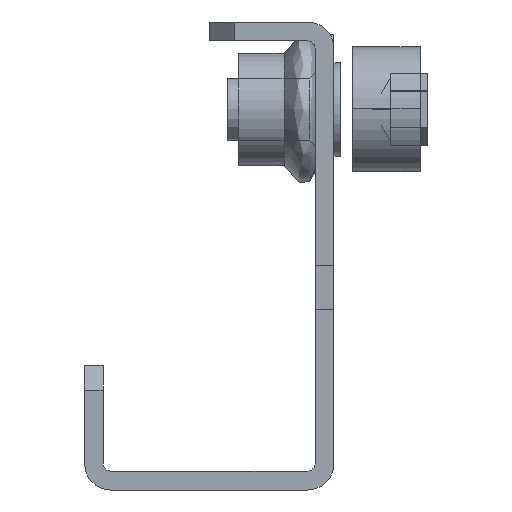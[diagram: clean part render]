
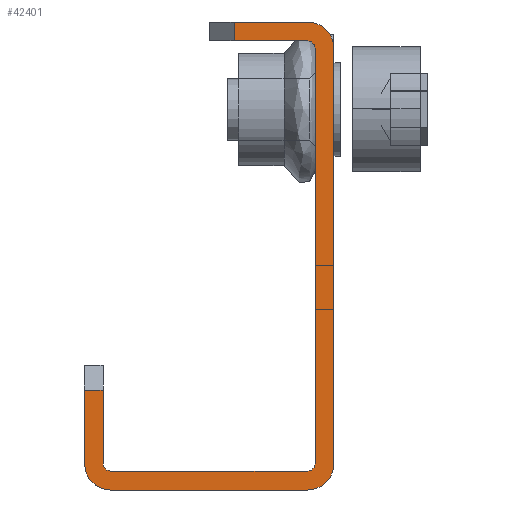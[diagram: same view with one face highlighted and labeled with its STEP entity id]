
A CAD part, left-side view. The second image highlights one B-rep face of the part: STEP entity #42401.
In plain terms, the highlighted planar face has unit normal (-1, 0, 0).
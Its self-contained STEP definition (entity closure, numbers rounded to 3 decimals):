
#9761=CARTESIAN_POINT(' ',(0.,1.5,-16.65));
#9762=VERTEX_POINT(' ',#9761);
#9776=CARTESIAN_POINT(' ',(0.,1.5,-16.65));
#9781=DIRECTION(' ',(0.,0.,1.));
#9786=VECTOR(' ',#9781,1.);
#9791=LINE('',#9776,#9786);
#9796=CARTESIAN_POINT(' ',(0.,1.5,16.65));
#9797=VERTEX_POINT(' ',#9796);
#9801=EDGE_CURVE(' ',#9762,#9797,#9791,.T.);
#28391=CARTESIAN_POINT(' ',(0.,0.,16.65));
#28392=VERTEX_POINT(' ',#28391);
#28406=CARTESIAN_POINT(' ',(0.,0.,-16.65));
#28411=DIRECTION(' ',(0.,0.,1.));
#28416=VECTOR(' ',#28411,1.);
#28421=LINE('',#28406,#28416);
#28426=CARTESIAN_POINT(' ',(0.,0.,-16.65));
#28427=VERTEX_POINT(' ',#28426);
#28431=EDGE_CURVE(' ',#28427,#28392,#28421,.T.);
#41586=CARTESIAN_POINT(' ',(0.,2.1,-17.25));
#41587=VERTEX_POINT(' ',#41586);
#41601=CARTESIAN_POINT(' ',(0.,2.1,-16.65));
#41606=DIRECTION(' ',(-1.,0.,0.));
#41611=DIRECTION(' ',(0.,0.,-1.));
#41616=AXIS2_PLACEMENT_3D(' ',#41601,#41606,#41611);
#41621=CIRCLE('',#41616,0.6);
#41626=EDGE_CURVE(' ',#41587,#9762,#41621,.T.);
#41811=DIRECTION(' ',(-1.,-0.,0.));
#41816=CARTESIAN_POINT(' ',(0.,1.352,-22.751));
#41821=DIRECTION(' ',(0.,-0.228,0.974));
#41826=AXIS2_PLACEMENT_3D(' ',#41816,#41811,#41821);
#41831=PLANE('',#41826);
#41836=CARTESIAN_POINT(' ',(0.,2.1,18.75));
#41841=DIRECTION(' ',(0.,1.,0.));
#41846=VECTOR(' ',#41841,1.);
#41851=LINE('',#41836,#41846);
#41856=CARTESIAN_POINT(' ',(0.,2.1,18.75));
#41857=VERTEX_POINT(' ',#41856);
#41861=CARTESIAN_POINT(' ',(0.,8.,18.75));
#41862=VERTEX_POINT(' ',#41861);
#41866=EDGE_CURVE(' ',#41857,#41862,#41851,.T.);
#41871=ORIENTED_EDGE(' ',*,*,#41866,.T.);
#41876=CARTESIAN_POINT(' ',(0.,8.,18.75));
#41881=DIRECTION(' ',(0.,0.,-1.));
#41886=VECTOR(' ',#41881,1.);
#41891=LINE('',#41876,#41886);
#41896=CARTESIAN_POINT(' ',(0.,8.,17.25));
#41897=VERTEX_POINT(' ',#41896);
#41901=EDGE_CURVE(' ',#41862,#41897,#41891,.T.);
#41906=ORIENTED_EDGE(' ',*,*,#41901,.T.);
#41911=CARTESIAN_POINT(' ',(0.,2.1,17.25));
#41916=DIRECTION(' ',(0.,1.,0.));
#41921=VECTOR(' ',#41916,1.);
#41926=LINE('',#41911,#41921);
#41931=CARTESIAN_POINT(' ',(0.,2.1,17.25));
#41932=VERTEX_POINT(' ',#41931);
#41936=EDGE_CURVE(' ',#41932,#41897,#41926,.T.);
#41941=ORIENTED_EDGE(' ',*,*,#41936,.F.);
#41946=CARTESIAN_POINT(' ',(0.,2.1,16.65));
#41951=DIRECTION(' ',(-1.,0.,-0.));
#41956=DIRECTION(' ',(0.,-1.,0.));
#41961=AXIS2_PLACEMENT_3D(' ',#41946,#41951,#41956);
#41966=CIRCLE('',#41961,0.6);
#41971=EDGE_CURVE(' ',#9797,#41932,#41966,.T.);
#41976=ORIENTED_EDGE(' ',*,*,#41971,.F.);
#41981=ORIENTED_EDGE(' ',*,*,#9801,.F.);
#41986=ORIENTED_EDGE(' ',*,*,#41626,.F.);
#41991=CARTESIAN_POINT(' ',(0.,4.,-17.25));
#41996=DIRECTION(' ',(0.,-1.,0.));
#42001=VECTOR(' ',#41996,1.);
#42006=LINE('',#41991,#42001);
#42011=CARTESIAN_POINT(' ',(0.,4.,-17.25));
#42012=VERTEX_POINT(' ',#42011);
#42016=EDGE_CURVE(' ',#42012,#41587,#42006,.T.);
#42021=ORIENTED_EDGE(' ',*,*,#42016,.F.);
#42026=CARTESIAN_POINT(' ',(0.,17.9,-17.25));
#42031=DIRECTION(' ',(0.,-1.,0.));
#42036=VECTOR(' ',#42031,1.);
#42041=LINE('',#42026,#42036);
#42046=CARTESIAN_POINT(' ',(0.,17.9,-17.25));
#42047=VERTEX_POINT(' ',#42046);
#42051=EDGE_CURVE(' ',#42047,#42012,#42041,.T.);
#42056=ORIENTED_EDGE(' ',*,*,#42051,.F.);
#42061=CARTESIAN_POINT(' ',(0.,17.9,-16.65));
#42066=DIRECTION(' ',(-1.,-0.,0.));
#42071=DIRECTION(' ',(0.,1.,0.));
#42076=AXIS2_PLACEMENT_3D(' ',#42061,#42066,#42071);
#42081=CIRCLE('',#42076,0.6);
#42086=CARTESIAN_POINT(' ',(0.,18.5,-16.65));
#42087=VERTEX_POINT(' ',#42086);
#42091=EDGE_CURVE(' ',#42087,#42047,#42081,.T.);
#42096=ORIENTED_EDGE(' ',*,*,#42091,.F.);
#42101=CARTESIAN_POINT(' ',(0.,18.5,-10.75));
#42106=DIRECTION(' ',(0.,0.,-1.));
#42111=VECTOR(' ',#42106,1.);
#42116=LINE('',#42101,#42111);
#42121=CARTESIAN_POINT(' ',(0.,18.5,-10.75));
#42122=VERTEX_POINT(' ',#42121);
#42126=EDGE_CURVE(' ',#42122,#42087,#42116,.T.);
#42131=ORIENTED_EDGE(' ',*,*,#42126,.F.);
#42136=CARTESIAN_POINT(' ',(0.,18.5,-10.75));
#42141=DIRECTION(' ',(0.,1.,0.));
#42146=VECTOR(' ',#42141,1.);
#42151=LINE('',#42136,#42146);
#42156=CARTESIAN_POINT(' ',(0.,20.,-10.75));
#42157=VERTEX_POINT(' ',#42156);
#42161=EDGE_CURVE(' ',#42122,#42157,#42151,.T.);
#42166=ORIENTED_EDGE(' ',*,*,#42161,.T.);
#42171=CARTESIAN_POINT(' ',(0.,20.,-10.75));
#42176=DIRECTION(' ',(0.,0.,-1.));
#42181=VECTOR(' ',#42176,1.);
#42186=LINE('',#42171,#42181);
#42191=CARTESIAN_POINT(' ',(0.,20.,-16.65));
#42192=VERTEX_POINT(' ',#42191);
#42196=EDGE_CURVE(' ',#42157,#42192,#42186,.T.);
#42201=ORIENTED_EDGE(' ',*,*,#42196,.T.);
#42206=CARTESIAN_POINT(' ',(0.,17.9,-16.65));
#42211=DIRECTION(' ',(-1.,-0.,0.));
#42216=DIRECTION(' ',(0.,1.,0.));
#42221=AXIS2_PLACEMENT_3D(' ',#42206,#42211,#42216);
#42226=CIRCLE('',#42221,2.1);
#42231=CARTESIAN_POINT(' ',(0.,17.9,-18.75));
#42232=VERTEX_POINT(' ',#42231);
#42236=EDGE_CURVE(' ',#42192,#42232,#42226,.T.);
#42241=ORIENTED_EDGE(' ',*,*,#42236,.T.);
#42246=CARTESIAN_POINT(' ',(0.,17.9,-18.75));
#42251=DIRECTION(' ',(0.,-1.,0.));
#42256=VECTOR(' ',#42251,1.);
#42261=LINE('',#42246,#42256);
#42266=CARTESIAN_POINT(' ',(0.,4.,-18.75));
#42267=VERTEX_POINT(' ',#42266);
#42271=EDGE_CURVE(' ',#42232,#42267,#42261,.T.);
#42276=ORIENTED_EDGE(' ',*,*,#42271,.T.);
#42281=CARTESIAN_POINT(' ',(0.,4.,-18.75));
#42286=DIRECTION(' ',(0.,-1.,0.));
#42291=VECTOR(' ',#42286,1.);
#42296=LINE('',#42281,#42291);
#42301=CARTESIAN_POINT(' ',(0.,2.1,-18.75));
#42302=VERTEX_POINT(' ',#42301);
#42306=EDGE_CURVE(' ',#42267,#42302,#42296,.T.);
#42311=ORIENTED_EDGE(' ',*,*,#42306,.T.);
#42316=CARTESIAN_POINT(' ',(0.,2.1,-16.65));
#42321=DIRECTION(' ',(-1.,0.,0.));
#42326=DIRECTION(' ',(0.,0.,-1.));
#42331=AXIS2_PLACEMENT_3D(' ',#42316,#42321,#42326);
#42336=CIRCLE('',#42331,2.1);
#42341=EDGE_CURVE(' ',#42302,#28427,#42336,.T.);
#42346=ORIENTED_EDGE(' ',*,*,#42341,.T.);
#42351=ORIENTED_EDGE(' ',*,*,#28431,.T.);
#42356=CARTESIAN_POINT(' ',(0.,2.1,16.65));
#42361=DIRECTION(' ',(-1.,0.,0.));
#42366=DIRECTION(' ',(0.,-1.,0.));
#42371=AXIS2_PLACEMENT_3D(' ',#42356,#42361,#42366);
#42376=CIRCLE('',#42371,2.1);
#42381=EDGE_CURVE(' ',#28392,#41857,#42376,.T.);
#42386=ORIENTED_EDGE(' ',*,*,#42381,.T.);
#42391=EDGE_LOOP(' ',(#41871,#41906,#41941,#41976,#41981,#41986,#42021,#42056,#42096,#42131,#42166,#42201,#42241,#42276,#42311,#42346,#42351,#42386));
#42396=FACE_OUTER_BOUND(' ',#42391,.T.);
#42401=ADVANCED_FACE('',(#42396),#41831,.T.);
